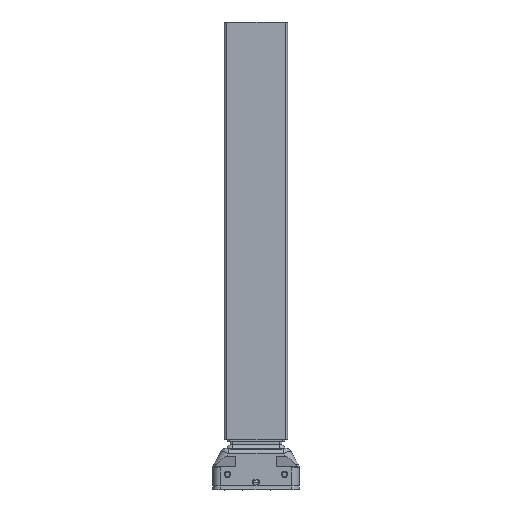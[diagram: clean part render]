
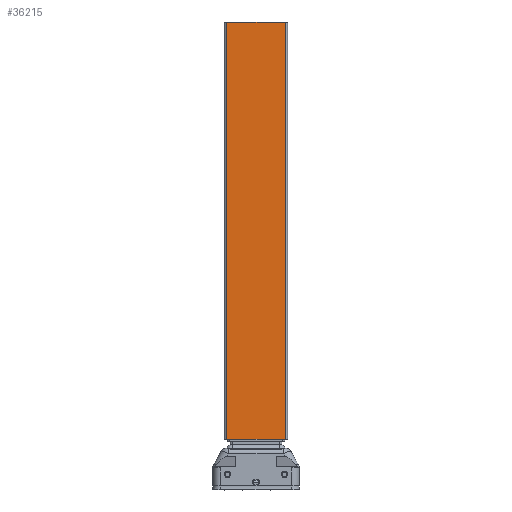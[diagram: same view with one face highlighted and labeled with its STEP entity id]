
A CAD part, top view. The second image highlights one B-rep face of the part: STEP entity #36215.
In plain terms, the highlighted planar face has unit normal (0, 0, 1) as drawn and (-1, 0, 0) by its records, which use the part's own axes.
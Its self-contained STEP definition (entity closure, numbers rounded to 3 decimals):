
#29986=DIRECTION('',(0.,0.,1.));
#29987=VECTOR('',#29986,462.);
#29988=CARTESIAN_POINT('',(-35.,-32.5,-504.));
#29989=LINE('',#29988,#29987);
#29994=DIRECTION('',(0.,-1.,0.));
#29995=VECTOR('',#29994,65.);
#29996=CARTESIAN_POINT('',(-35.,32.5,-42.));
#29997=LINE('',#29996,#29995);
#30002=DIRECTION('',(0.,0.,-1.));
#30003=VECTOR('',#30002,462.);
#30004=CARTESIAN_POINT('',(-35.,32.5,-42.));
#30005=LINE('',#30004,#30003);
#30052=DIRECTION('',(0.,-1.,0.));
#30053=VECTOR('',#30052,65.);
#30054=CARTESIAN_POINT('',(-35.,32.5,-504.));
#30055=LINE('',#30054,#30053);
#34548=CARTESIAN_POINT('',(-35.,-32.5,-42.));
#34549=VERTEX_POINT('',#34548);
#34550=CARTESIAN_POINT('',(-35.,32.5,-42.));
#34551=VERTEX_POINT('',#34550);
#34594=CARTESIAN_POINT('',(-35.,-32.5,-504.));
#34595=VERTEX_POINT('',#34594);
#34596=CARTESIAN_POINT('',(-35.,32.5,-504.));
#34597=VERTEX_POINT('',#34596);
#36202=CARTESIAN_POINT('',(-35.,35.,0.));
#36203=DIRECTION('',(-1.,0.,0.));
#36204=DIRECTION('',(0.,-1.,0.));
#36205=AXIS2_PLACEMENT_3D('',#36202,#36203,#36204);
#36206=PLANE('',#36205);
#36208=ORIENTED_EDGE('',*,*,#36207,.F.);
#36209=ORIENTED_EDGE('',*,*,#36080,.T.);
#36210=ORIENTED_EDGE('',*,*,#36193,.F.);
#36212=ORIENTED_EDGE('',*,*,#36211,.F.);
#36213=EDGE_LOOP('',(#36208,#36209,#36210,#36212));
#36214=FACE_OUTER_BOUND('',#36213,.F.);
#36080=EDGE_CURVE('',#34551,#34549,#29997,.T.);
#36193=EDGE_CURVE('',#34595,#34549,#29989,.T.);
#36207=EDGE_CURVE('',#34551,#34597,#30005,.T.);
#36211=EDGE_CURVE('',#34597,#34595,#30055,.T.);
#36215=ADVANCED_FACE('',(#36214),#36206,.T.);
